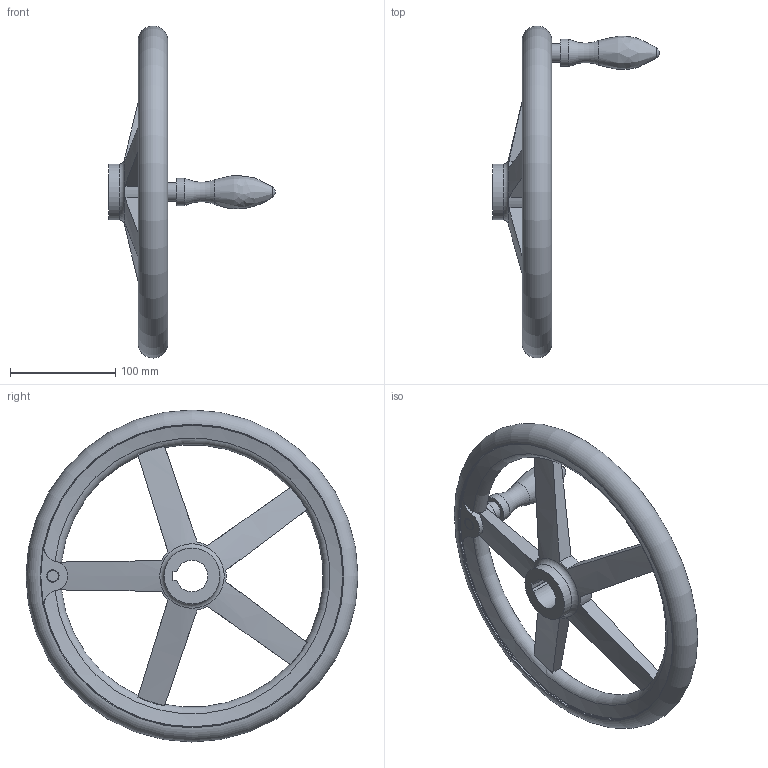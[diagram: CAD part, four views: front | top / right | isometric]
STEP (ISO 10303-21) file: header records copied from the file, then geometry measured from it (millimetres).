
FILE_DESCRIPTION( ( 'STEP AP203' ), '1' );
FILE_NAME( 'C:/Temp/Ganter_Step_05_03_2020/data/1_3/din_950/din_950_k/din_950_k_d/Handwheel DIN 950-AL-315-K30-D.stp', '2020-03-05T10:31:03', ( 'License CC BY-ND 4.0' ), ( 'CADENAS' ), ' ', 'PARTsolutions', ' ' );
FILE_SCHEMA( ( 'CONFIG_CONTROL_DESIGN' ) );
Length unit declared in the file: millimetre
Products named in the file (1): _Handwheel DIN 950-AL-315-K30-D
Bounding box: 158 x 315 x 315 mm (x, y, z)
Volume: 853438.8 mm3; surface area: 144474 mm2
Topology: 1 solids, 1 shells, 68 faces, 197 edges, 127 vertices
Faces by surface type: torus 21, cylinder 20, plane 19, cone 6, bspline 1, sphere 1
Full cylindrical faces by diameter (mm): 18 x1, 26 x1, 53 x2, 287 x2
Entity records: 2742 total; most frequent: CARTESIAN_POINT 1081, ORIENTED_EDGE 342, DIRECTION 308, EDGE_CURVE 171, AXIS2_PLACEMENT_3D 141, VERTEX_POINT 123, EDGE_LOOP 96, FACE_OUTER_BOUND 83
